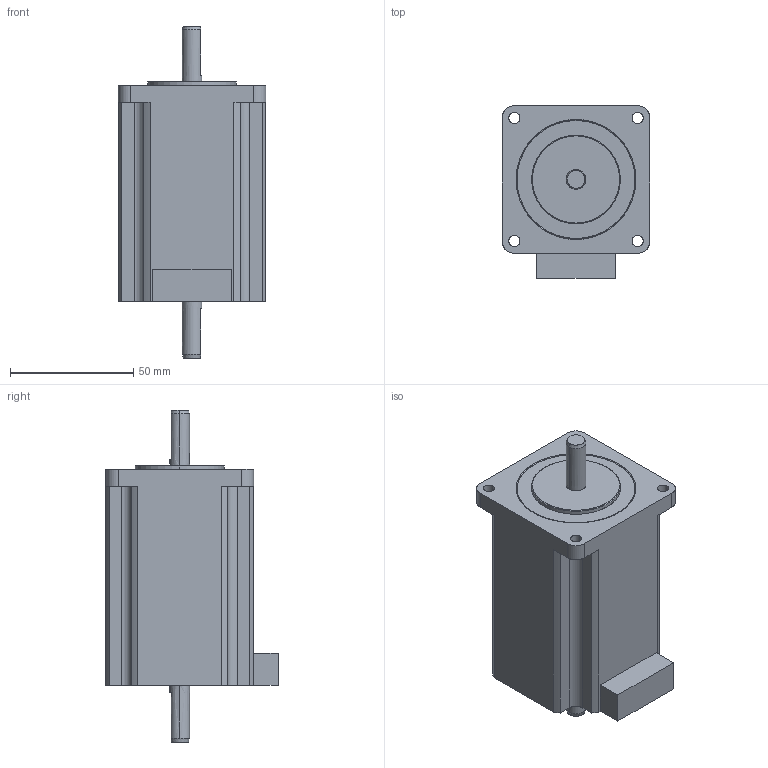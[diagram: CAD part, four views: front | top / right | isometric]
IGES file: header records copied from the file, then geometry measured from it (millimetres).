
Start section: SolidWorks IGES file using analytic representation for surfaces
Global section: file name: C:\Users\7666\Desktop\PMSA-U60D5D_3D\PMSA-U60D5D_3D.IGS; native system: SolidWorks 2014; preprocessor: SolidWorks 2014; author: 7666; date: 170131.165202; units: millimetre
Bounding box: 60 x 70 x 134.8 mm (x, y, z)
Surface area: 29375.9 mm2 (no closed solid volume)
Topology: 0 solids, 0 shells, 73 faces, 1133 edges, 1133 vertices
Faces by surface type: revolution 39, bspline 34
